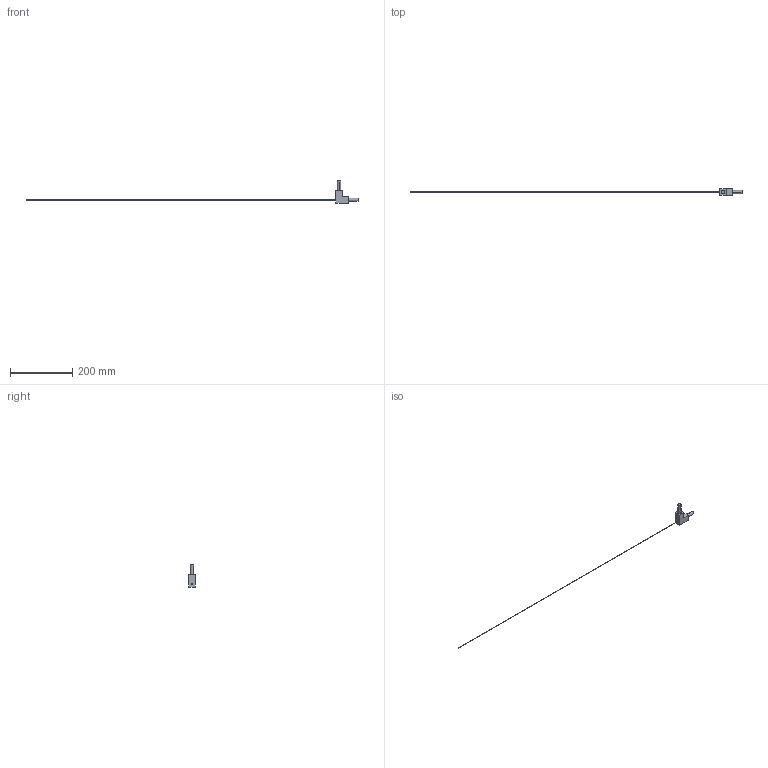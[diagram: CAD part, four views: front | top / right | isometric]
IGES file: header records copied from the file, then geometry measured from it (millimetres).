
Start section: SolidWorks IGES file using analytic representation for surfaces
Global section: file name: C:\Users\tungari.NEMOLIGHTING\Desktop\3D\SYSTEMS\3D_LINESCAPES_SYSTEMS\3D_LINESCAPES_UP_VERT_ANGLE\3D_LINESCAPES_UP_VERT_ANGLE.IGS; native system: SolidWorks 2016; preprocessor: SolidWorks 2016; author: tungari; date: 180302.165536; units: millimetre
Bounding box: 1066 x 20 x 71 mm (x, y, z)
Surface area: 11615.3 mm2 (no closed solid volume)
Topology: 0 solids, 0 shells, 20 faces, 220 edges, 220 vertices
Faces by surface type: bspline 14, revolution 6
